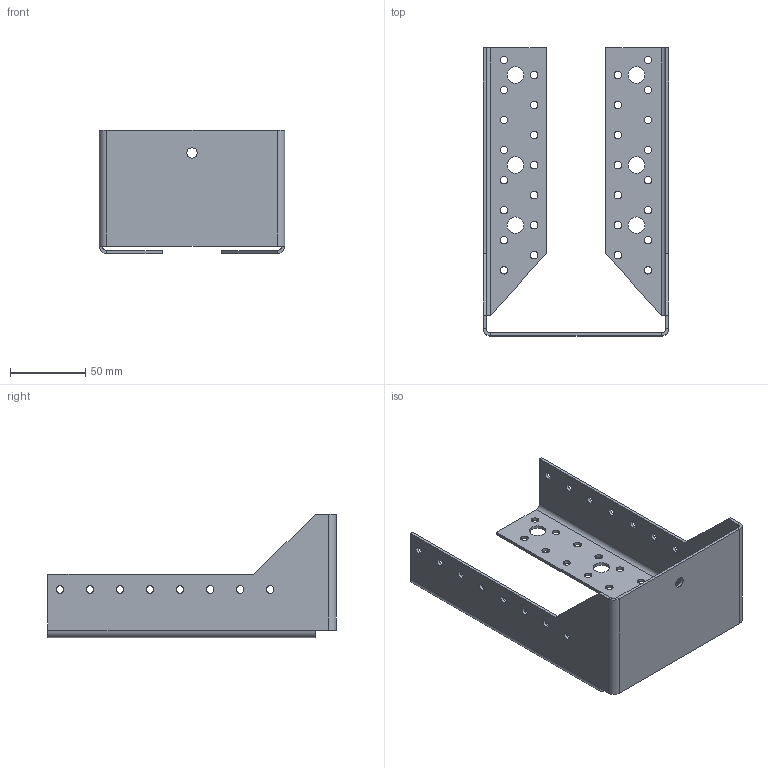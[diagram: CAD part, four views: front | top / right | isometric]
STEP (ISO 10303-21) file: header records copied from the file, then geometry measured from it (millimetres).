
FILE_DESCRIPTION (( 'STEP AP203' ), '1' );
FILE_NAME ('30634IKO.STEP', '2020-04-09T09:40:14', ( '' ), ( '' ), 'SwSTEP 2.0', 'SolidWorks 2013', '' );
FILE_SCHEMA (( 'CONFIG_CONTROL_DESIGN' ));
Length unit declared in the file: millimetre
Products named in the file (1): 30634IKO
Bounding box: 123.72 x 191.86 x 82 mm (x, y, z)
Volume: 76559.8 mm3; surface area: 80931.9 mm2
Topology: 1 solids, 1 shells, 150 faces, 412 edges, 264 vertices
Faces by surface type: cylinder 114, plane 36
Entity records: 5137 total; most frequent: DIRECTION 942, CARTESIAN_POINT 827, ORIENTED_EDGE 824, EDGE_CURVE 412, AXIS2_PLACEMENT_3D 379, VERTEX_POINT 264, EDGE_LOOP 256, CIRCLE 228
